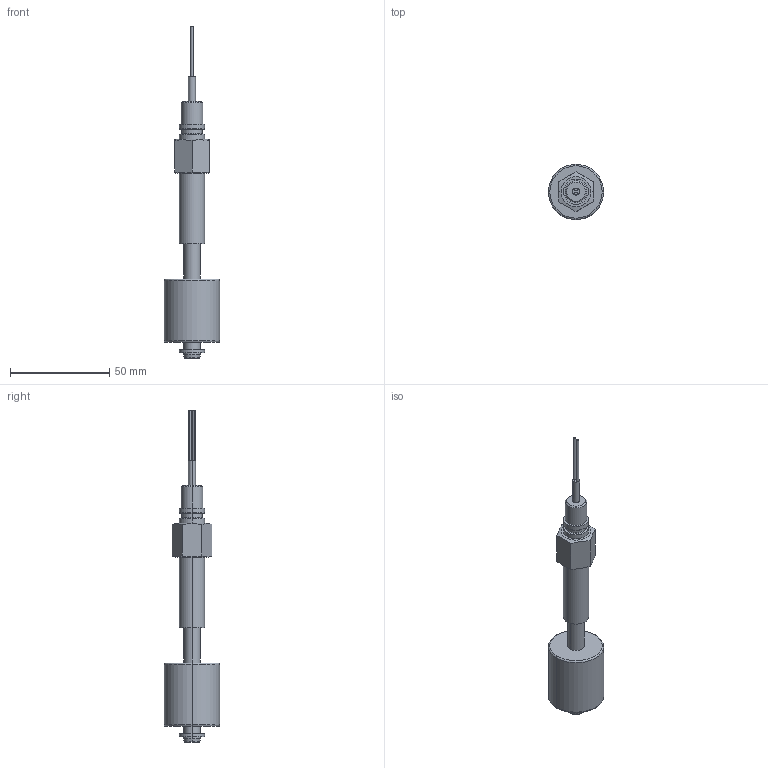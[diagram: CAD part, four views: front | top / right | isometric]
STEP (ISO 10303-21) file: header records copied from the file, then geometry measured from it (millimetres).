
FILE_DESCRIPTION (( 'STEP AP214' ), '1' );
FILE_NAME ('L14F-TYPE.STEP', '2008-01-14T13:17:26', ( 'Authorized User' ), ( 'Precision Sensors' ), 'SwSTEP 2.0', 'SolidWorks 2006303', '' );
FILE_SCHEMA (( 'AUTOMOTIVE_DESIGN' ));
Length unit declared in the file: inch
Products named in the file (1): L14F-TYPE
Bounding box: 27.94 x 27.94 x 167.64 mm (x, y, z)
Volume: 32295.8 mm3; surface area: 8723.1 mm2
Topology: 1 solids, 1 shells, 73 faces, 152 edges, 92 vertices
Faces by surface type: cylinder 26, plane 19, torus 16, cone 12
Entity records: 2045 total; most frequent: CARTESIAN_POINT 414, DIRECTION 376, ORIENTED_EDGE 304, AXIS2_PLACEMENT_3D 166, EDGE_CURVE 152, CIRCLE 92, VERTEX_POINT 92, EDGE_LOOP 84
